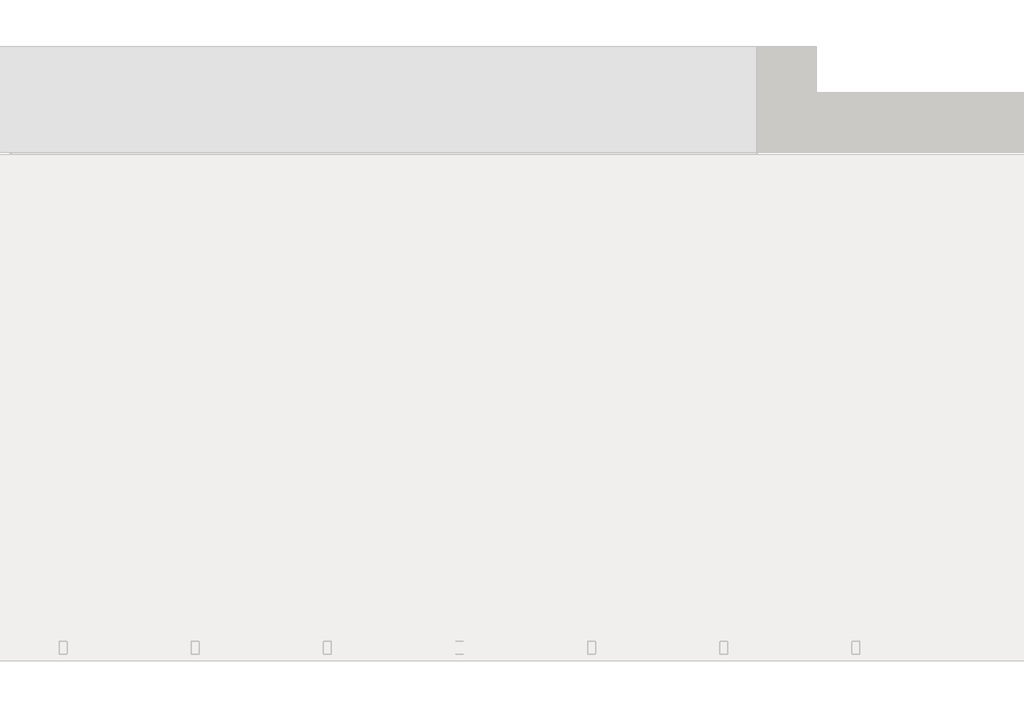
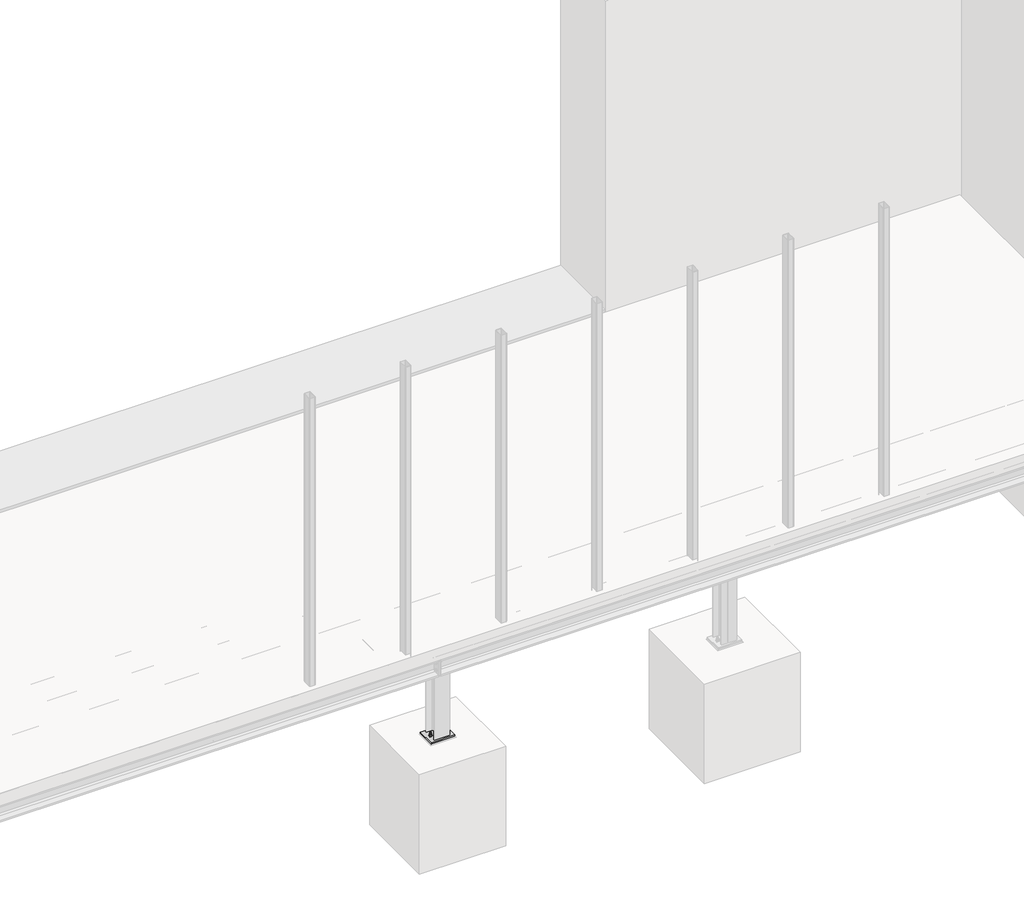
# One storey, part 13 of 36: 10 proxies.
"""IFC4 building model written with IfcOpenShell, lengths in millimetres."""

from ifc_helpers import new_model, si_unit, point, frame, frame_2d, origin, place, context, project, spatial, polyline, circle_curve, trimmed, segment, composite_curve, outline, extrude, element, save

model = new_model("IFC4")

# Units and contexts
model_context = context("Model", 3, world=origin())
ifc_project = project(units=[si_unit("LENGTHUNIT", "METRE", prefix="MILLI")], contexts=[model_context])

# Site, building, storey
site = spatial("IfcSite", under=ifc_project)
building = spatial("IfcBuilding", under=site)
storey = spatial("IfcBuildingStorey", under=building, Name="Základy", Elevation=-1200.0)

# Proxies
placement = place(None, origin())
element("IfcBuildingElementProxy", 1, Name="PLECH", ObjectType="PLECH", at=placement, inside=storey, context=model_context, shape_type="SweptSolid", body=[
    extrude(outline(polyline([(11940.0, 1200.0), (11940.0, 1320.0), (11950.0, 1320.0), (11950.0, 1200.0), (11940.0, 1200.0)])), frame((0.0, 0.0, -299.0), z_axis=(0.0, 0.0, 1.0), x_axis=(1.0, 0.0, 0.0)), (0.0, 0.0, 1.0), 98.0),
])
element("IfcBuildingElementProxy", 2, Name="PLECH", ObjectType="PLECH", at=placement, inside=storey, context=model_context, shape_type="SweptSolid", body=[
    extrude(outline(polyline([(8960.0, 3775.0), (9140.0, 3775.0), (9140.0, 3767.0), (8960.0, 3767.0), (8960.0, 3775.0)])), frame((0.0, 0.0, -316.0), z_axis=(0.0, 0.0, 1.0), x_axis=(1.0, 0.0, 0.0)), (0.0, 0.0, 1.0), 132.0),
])
element("IfcBuildingElementProxy", 3, Name="PLECH", ObjectType="PLECH", at=placement, inside=storey, context=model_context, shape_type="SweptSolid", body=[
    extrude(outline(composite_curve([segment(polyline([(-174.0, 8960.0), (-326.0, 8960.0), (-326.0, 9020.5)]), True, "CONTINUOUS"), segment(trimmed(circle_curve(frame_2d((-326.0, 9045.5)), 25.0), [point((-326.0, 9020.5))], [point((-301.0, 9045.5))], True, "CARTESIAN"), True, "CONTINUOUS"), segment(polyline([(-301.0, 9045.5), (-199.0, 9045.5)]), True, "CONTINUOUS"), segment(trimmed(circle_curve(frame_2d((-174.0, 9045.5)), 25.0), [point((-199.0, 9045.5))], [point((-174.0, 9020.5))], True, "CARTESIAN"), True, "CONTINUOUS"), segment(polyline([(-174.0, 9020.5), (-174.0, 8960.0)]), True, "CONTINUOUS")], self_intersect=False)), frame((0.0, 1256.0, 0.0), z_axis=(0.0, 1.0, 0.0), x_axis=(0.0, 0.0, 1.0)), (0.0, 0.0, 1.0), 8.0),
])
element("IfcBuildingElementProxy", 4, Name="PLECH", ObjectType="PLECH", at=placement, inside=storey, context=model_context, shape_type="SweptSolid", body=[
    extrude(outline(polyline([(11950.0, 1200.0), (11950.0, 1320.0), (11960.0, 1320.0), (11960.0, 1200.0), (11950.0, 1200.0)])), frame((0.0, 0.0, -332.0), z_axis=(0.0, 0.0, 1.0), x_axis=(1.0, 0.0, 0.0)), (0.0, 0.0, 1.0), 164.0),
])
element("IfcBuildingElementProxy", 5, Name="PLECH", ObjectType="PLECH", at=placement, inside=storey, context=model_context, shape_type="SweptSolid", body=[
    extrude(outline(polyline([(9175.0, 1356.0), (9175.0, 1164.0), (8925.0, 1164.0), (8925.0, 1356.0), (9175.0, 1356.0)])), frame((0.0, 0.0, -1990.0), z_axis=(0.0, 0.0, 1.0), x_axis=(1.0, 0.0, 0.0)), (0.0, 0.0, 1.0), 15.0),
])
element("IfcBuildingElementProxy", 6, Name="PLECH", ObjectType="PLECH", at=placement, inside=storey, context=model_context, shape_type="SweptSolid", body=[
    extrude(outline(polyline([(9140.0, 1346.0), (9140.0, 1174.0), (8960.0, 1174.0), (8960.0, 1346.0), (9140.0, 1346.0)])), frame((0.0, 0.0, -350.0), z_axis=(0.0, 0.0, 1.0), x_axis=(1.0, 0.0, 0.0)), (0.0, 0.0, 1.0), 10.0),
])
element("IfcBuildingElementProxy", 7, Name="Bolt assembly", ObjectType="Bolt assembly", at=placement, inside=storey, context=model_context, shape_type="SweptSolid", body=[
    extrude(outline(composite_curve([segment(trimmed(circle_curve(frame_2d((1230.0, -225.0)), 6.5), [point((1230.0, -231.5))], [point((1230.0, -218.5))], False, "CARTESIAN"), True, "CONTINUOUS"), segment(trimmed(circle_curve(frame_2d((1230.0, -225.0)), 6.5), [point((1230.0, -218.5))], [point((1230.0, -231.5))], False, "CARTESIAN"), True, "CONTINUOUS")], self_intersect=False)), frame((9140.1, 0.0, 0.0), z_axis=(1.0, 0.0, 0.0), x_axis=(0.0, 1.0, 0.0)), (0.0, 0.0, 1.0), 10.0),
    extrude(outline(polyline([(1230.0, -235.3923048), (1221.0, -230.1961524), (1221.0, -219.8038476), (1230.0, -214.6076952), (1239.0, -219.8038476), (1239.0, -230.1961524), (1230.0, -235.3923048)])), frame((9130.0, 0.0, 0.0), z_axis=(1.0, 0.0, 0.0), x_axis=(0.0, 1.0, 0.0)), (0.0, 0.0, 1.0), 7.5),
    extrude(outline(composite_curve([segment(trimmed(circle_curve(frame_2d((1230.0, -225.0)), 6.0), [point((1230.0, -231.0))], [point((1230.0, -219.0))], False, "CARTESIAN"), True, "CONTINUOUS"), segment(trimmed(circle_curve(frame_2d((1230.0, -225.0)), 6.0), [point((1230.0, -219.0))], [point((1230.0, -231.0))], False, "CARTESIAN"), True, "CONTINUOUS")], self_intersect=False)), frame((9137.5, 0.0, 0.0), z_axis=(1.0, 0.0, 0.0), x_axis=(0.0, 1.0, 0.0)), (0.0, 0.0, 1.0), 40.0),
    extrude(outline(composite_curve([segment(trimmed(circle_curve(frame_2d((1230.0, -225.0)), 12.0), [point((1230.0, -237.0))], [point((1230.0, -213.0))], False, "CARTESIAN"), True, "CONTINUOUS"), segment(trimmed(circle_curve(frame_2d((1230.0, -225.0)), 12.0), [point((1230.0, -213.0))], [point((1230.0, -237.0))], False, "CARTESIAN"), True, "CONTINUOUS")], self_intersect=False)), frame((9137.5, 0.0, 0.0), z_axis=(1.0, 0.0, 0.0), x_axis=(0.0, 1.0, 0.0)), (0.0, 0.0, 1.0), 2.5),
    extrude(outline(composite_curve([segment(trimmed(circle_curve(frame_2d((1230.0, -225.0)), 12.0), [point((1230.0, -237.0))], [point((1230.0, -213.0))], False, "CARTESIAN"), True, "CONTINUOUS"), segment(trimmed(circle_curve(frame_2d((1230.0, -225.0)), 12.0), [point((1230.0, -213.0))], [point((1230.0, -237.0))], False, "CARTESIAN"), True, "CONTINUOUS")], self_intersect=False)), frame((9160.0, 0.0, 0.0), z_axis=(1.0, 0.0, 0.0), x_axis=(0.0, 1.0, 0.0)), (0.0, 0.0, 1.0), 2.5),
    extrude(outline(polyline([(1230.0, -235.9696551), (1220.5, -230.4848276), (1220.5, -219.5151724), (1230.0, -214.0303449), (1239.5, -219.5151724), (1239.5, -230.4848276), (1230.0, -235.9696551)])), frame((9162.5, 0.0, 0.0), z_axis=(1.0, 0.0, 0.0), x_axis=(0.0, 1.0, 0.0)), (0.0, 0.0, 1.0), 10.0),
    extrude(outline(composite_curve([segment(trimmed(circle_curve(frame_2d((1230.0, -225.0)), 6.5), [point((1230.0, -231.5))], [point((1230.0, -218.5))], False, "CARTESIAN"), True, "CONTINUOUS"), segment(trimmed(circle_curve(frame_2d((1230.0, -225.0)), 6.5), [point((1230.0, -218.5))], [point((1230.0, -231.5))], False, "CARTESIAN"), True, "CONTINUOUS")], self_intersect=False)), frame((9149.9, 0.0, 0.0), z_axis=(1.0, 0.0, 0.0), x_axis=(0.0, 1.0, 0.0)), (0.0, 0.0, 1.0), 10.1),
    extrude(outline(composite_curve([segment(trimmed(circle_curve(frame_2d((1230.0, -275.0)), 6.5), [point((1230.0, -281.5))], [point((1230.0, -268.5))], False, "CARTESIAN"), True, "CONTINUOUS"), segment(trimmed(circle_curve(frame_2d((1230.0, -275.0)), 6.5), [point((1230.0, -268.5))], [point((1230.0, -281.5))], False, "CARTESIAN"), True, "CONTINUOUS")], self_intersect=False)), frame((9140.1, 0.0, 0.0), z_axis=(1.0, 0.0, 0.0), x_axis=(0.0, 1.0, 0.0)), (0.0, 0.0, 1.0), 10.0),
    extrude(outline(polyline([(1230.0, -285.3923048), (1221.0, -280.1961524), (1221.0, -269.8038476), (1230.0, -264.6076952), (1239.0, -269.8038476), (1239.0, -280.1961524), (1230.0, -285.3923048)])), frame((9130.0, 0.0, 0.0), z_axis=(1.0, 0.0, 0.0), x_axis=(0.0, 1.0, 0.0)), (0.0, 0.0, 1.0), 7.5),
    extrude(outline(composite_curve([segment(trimmed(circle_curve(frame_2d((1230.0, -275.0)), 6.0), [point((1230.0, -281.0))], [point((1230.0, -269.0))], False, "CARTESIAN"), True, "CONTINUOUS"), segment(trimmed(circle_curve(frame_2d((1230.0, -275.0)), 6.0), [point((1230.0, -269.0))], [point((1230.0, -281.0))], False, "CARTESIAN"), True, "CONTINUOUS")], self_intersect=False)), frame((9137.5, 0.0, 0.0), z_axis=(1.0, 0.0, 0.0), x_axis=(0.0, 1.0, 0.0)), (0.0, 0.0, 1.0), 40.0),
    extrude(outline(composite_curve([segment(trimmed(circle_curve(frame_2d((1230.0, -275.0)), 12.0), [point((1230.0, -287.0))], [point((1230.0, -263.0))], False, "CARTESIAN"), True, "CONTINUOUS"), segment(trimmed(circle_curve(frame_2d((1230.0, -275.0)), 12.0), [point((1230.0, -263.0))], [point((1230.0, -287.0))], False, "CARTESIAN"), True, "CONTINUOUS")], self_intersect=False)), frame((9137.5, 0.0, 0.0), z_axis=(1.0, 0.0, 0.0), x_axis=(0.0, 1.0, 0.0)), (0.0, 0.0, 1.0), 2.5),
    extrude(outline(composite_curve([segment(trimmed(circle_curve(frame_2d((1230.0, -275.0)), 12.0), [point((1230.0, -287.0))], [point((1230.0, -263.0))], False, "CARTESIAN"), True, "CONTINUOUS"), segment(trimmed(circle_curve(frame_2d((1230.0, -275.0)), 12.0), [point((1230.0, -263.0))], [point((1230.0, -287.0))], False, "CARTESIAN"), True, "CONTINUOUS")], self_intersect=False)), frame((9160.0, 0.0, 0.0), z_axis=(1.0, 0.0, 0.0), x_axis=(0.0, 1.0, 0.0)), (0.0, 0.0, 1.0), 2.5),
    extrude(outline(polyline([(1230.0, -285.9696551), (1220.5, -280.4848276), (1220.5, -269.5151724), (1230.0, -264.0303449), (1239.5, -269.5151724), (1239.5, -280.4848276), (1230.0, -285.9696551)])), frame((9162.5, 0.0, 0.0), z_axis=(1.0, 0.0, 0.0), x_axis=(0.0, 1.0, 0.0)), (0.0, 0.0, 1.0), 10.0),
    extrude(outline(composite_curve([segment(trimmed(circle_curve(frame_2d((1230.0, -275.0)), 6.5), [point((1230.0, -281.5))], [point((1230.0, -268.5))], False, "CARTESIAN"), True, "CONTINUOUS"), segment(trimmed(circle_curve(frame_2d((1230.0, -275.0)), 6.5), [point((1230.0, -268.5))], [point((1230.0, -281.5))], False, "CARTESIAN"), True, "CONTINUOUS")], self_intersect=False)), frame((9149.9, 0.0, 0.0), z_axis=(1.0, 0.0, 0.0), x_axis=(0.0, 1.0, 0.0)), (0.0, 0.0, 1.0), 10.1),
    extrude(outline(composite_curve([segment(trimmed(circle_curve(frame_2d((1290.0, -225.0)), 6.5), [point((1290.0, -231.5))], [point((1290.0, -218.5))], False, "CARTESIAN"), True, "CONTINUOUS"), segment(trimmed(circle_curve(frame_2d((1290.0, -225.0)), 6.5), [point((1290.0, -218.5))], [point((1290.0, -231.5))], False, "CARTESIAN"), True, "CONTINUOUS")], self_intersect=False)), frame((9140.1, 0.0, 0.0), z_axis=(1.0, 0.0, 0.0), x_axis=(0.0, 1.0, 0.0)), (0.0, 0.0, 1.0), 10.0),
    extrude(outline(polyline([(1290.0, -235.3923048), (1281.0, -230.1961524), (1281.0, -219.8038476), (1290.0, -214.6076952), (1299.0, -219.8038476), (1299.0, -230.1961524), (1290.0, -235.3923048)])), frame((9130.0, 0.0, 0.0), z_axis=(1.0, 0.0, 0.0), x_axis=(0.0, 1.0, 0.0)), (0.0, 0.0, 1.0), 7.5),
    extrude(outline(composite_curve([segment(trimmed(circle_curve(frame_2d((1290.0, -225.0)), 6.0), [point((1290.0, -231.0))], [point((1290.0, -219.0))], False, "CARTESIAN"), True, "CONTINUOUS"), segment(trimmed(circle_curve(frame_2d((1290.0, -225.0)), 6.0), [point((1290.0, -219.0))], [point((1290.0, -231.0))], False, "CARTESIAN"), True, "CONTINUOUS")], self_intersect=False)), frame((9137.5, 0.0, 0.0), z_axis=(1.0, 0.0, 0.0), x_axis=(0.0, 1.0, 0.0)), (0.0, 0.0, 1.0), 40.0),
    extrude(outline(composite_curve([segment(trimmed(circle_curve(frame_2d((1290.0, -225.0)), 12.0), [point((1290.0, -237.0))], [point((1290.0, -213.0))], False, "CARTESIAN"), True, "CONTINUOUS"), segment(trimmed(circle_curve(frame_2d((1290.0, -225.0)), 12.0), [point((1290.0, -213.0))], [point((1290.0, -237.0))], False, "CARTESIAN"), True, "CONTINUOUS")], self_intersect=False)), frame((9137.5, 0.0, 0.0), z_axis=(1.0, 0.0, 0.0), x_axis=(0.0, 1.0, 0.0)), (0.0, 0.0, 1.0), 2.5),
    extrude(outline(composite_curve([segment(trimmed(circle_curve(frame_2d((1290.0, -225.0)), 12.0), [point((1290.0, -237.0))], [point((1290.0, -213.0))], False, "CARTESIAN"), True, "CONTINUOUS"), segment(trimmed(circle_curve(frame_2d((1290.0, -225.0)), 12.0), [point((1290.0, -213.0))], [point((1290.0, -237.0))], False, "CARTESIAN"), True, "CONTINUOUS")], self_intersect=False)), frame((9160.0, 0.0, 0.0), z_axis=(1.0, 0.0, 0.0), x_axis=(0.0, 1.0, 0.0)), (0.0, 0.0, 1.0), 2.5),
    extrude(outline(polyline([(1290.0, -235.9696551), (1280.5, -230.4848276), (1280.5, -219.5151724), (1290.0, -214.0303449), (1299.5, -219.5151724), (1299.5, -230.4848276), (1290.0, -235.9696551)])), frame((9162.5, 0.0, 0.0), z_axis=(1.0, 0.0, 0.0), x_axis=(0.0, 1.0, 0.0)), (0.0, 0.0, 1.0), 10.0),
    extrude(outline(composite_curve([segment(trimmed(circle_curve(frame_2d((1290.0, -225.0)), 6.5), [point((1290.0, -231.5))], [point((1290.0, -218.5))], False, "CARTESIAN"), True, "CONTINUOUS"), segment(trimmed(circle_curve(frame_2d((1290.0, -225.0)), 6.5), [point((1290.0, -218.5))], [point((1290.0, -231.5))], False, "CARTESIAN"), True, "CONTINUOUS")], self_intersect=False)), frame((9149.9, 0.0, 0.0), z_axis=(1.0, 0.0, 0.0), x_axis=(0.0, 1.0, 0.0)), (0.0, 0.0, 1.0), 10.1),
    extrude(outline(composite_curve([segment(trimmed(circle_curve(frame_2d((1290.0, -275.0)), 6.5), [point((1290.0, -281.5))], [point((1290.0, -268.5))], False, "CARTESIAN"), True, "CONTINUOUS"), segment(trimmed(circle_curve(frame_2d((1290.0, -275.0)), 6.5), [point((1290.0, -268.5))], [point((1290.0, -281.5))], False, "CARTESIAN"), True, "CONTINUOUS")], self_intersect=False)), frame((9140.1, 0.0, 0.0), z_axis=(1.0, 0.0, 0.0), x_axis=(0.0, 1.0, 0.0)), (0.0, 0.0, 1.0), 10.0),
    extrude(outline(polyline([(1290.0, -285.3923048), (1281.0, -280.1961524), (1281.0, -269.8038476), (1290.0, -264.6076952), (1299.0, -269.8038476), (1299.0, -280.1961524), (1290.0, -285.3923048)])), frame((9130.0, 0.0, 0.0), z_axis=(1.0, 0.0, 0.0), x_axis=(0.0, 1.0, 0.0)), (0.0, 0.0, 1.0), 7.5),
    extrude(outline(composite_curve([segment(trimmed(circle_curve(frame_2d((1290.0, -275.0)), 6.0), [point((1290.0, -281.0))], [point((1290.0, -269.0))], False, "CARTESIAN"), True, "CONTINUOUS"), segment(trimmed(circle_curve(frame_2d((1290.0, -275.0)), 6.0), [point((1290.0, -269.0))], [point((1290.0, -281.0))], False, "CARTESIAN"), True, "CONTINUOUS")], self_intersect=False)), frame((9137.5, 0.0, 0.0), z_axis=(1.0, 0.0, 0.0), x_axis=(0.0, 1.0, 0.0)), (0.0, 0.0, 1.0), 40.0),
    extrude(outline(composite_curve([segment(trimmed(circle_curve(frame_2d((1290.0, -275.0)), 12.0), [point((1290.0, -287.0))], [point((1290.0, -263.0))], False, "CARTESIAN"), True, "CONTINUOUS"), segment(trimmed(circle_curve(frame_2d((1290.0, -275.0)), 12.0), [point((1290.0, -263.0))], [point((1290.0, -287.0))], False, "CARTESIAN"), True, "CONTINUOUS")], self_intersect=False)), frame((9137.5, 0.0, 0.0), z_axis=(1.0, 0.0, 0.0), x_axis=(0.0, 1.0, 0.0)), (0.0, 0.0, 1.0), 2.5),
    extrude(outline(composite_curve([segment(trimmed(circle_curve(frame_2d((1290.0, -275.0)), 12.0), [point((1290.0, -287.0))], [point((1290.0, -263.0))], False, "CARTESIAN"), True, "CONTINUOUS"), segment(trimmed(circle_curve(frame_2d((1290.0, -275.0)), 12.0), [point((1290.0, -263.0))], [point((1290.0, -287.0))], False, "CARTESIAN"), True, "CONTINUOUS")], self_intersect=False)), frame((9160.0, 0.0, 0.0), z_axis=(1.0, 0.0, 0.0), x_axis=(0.0, 1.0, 0.0)), (0.0, 0.0, 1.0), 2.5),
    extrude(outline(polyline([(1290.0, -285.9696551), (1280.5, -280.4848276), (1280.5, -269.5151724), (1290.0, -264.0303449), (1299.5, -269.5151724), (1299.5, -280.4848276), (1290.0, -285.9696551)])), frame((9162.5, 0.0, 0.0), z_axis=(1.0, 0.0, 0.0), x_axis=(0.0, 1.0, 0.0)), (0.0, 0.0, 1.0), 10.0),
    extrude(outline(composite_curve([segment(trimmed(circle_curve(frame_2d((1290.0, -275.0)), 6.5), [point((1290.0, -281.5))], [point((1290.0, -268.5))], False, "CARTESIAN"), True, "CONTINUOUS"), segment(trimmed(circle_curve(frame_2d((1290.0, -275.0)), 6.5), [point((1290.0, -268.5))], [point((1290.0, -281.5))], False, "CARTESIAN"), True, "CONTINUOUS")], self_intersect=False)), frame((9149.9, 0.0, 0.0), z_axis=(1.0, 0.0, 0.0), x_axis=(0.0, 1.0, 0.0)), (0.0, 0.0, 1.0), 10.1),
])
element("IfcBuildingElementProxy", 8, Name="Bolt assembly", ObjectType="Bolt assembly", at=placement, inside=storey, context=model_context, shape_type="SweptSolid", body=[
    extrude(outline(composite_curve([segment(trimmed(circle_curve(frame_2d((1230.0, -225.0)), 6.5), [point((1230.0, -231.5))], [point((1230.0, -218.5))], False, "CARTESIAN"), True, "CONTINUOUS"), segment(trimmed(circle_curve(frame_2d((1230.0, -225.0)), 6.5), [point((1230.0, -218.5))], [point((1230.0, -231.5))], False, "CARTESIAN"), True, "CONTINUOUS")], self_intersect=False)), frame((11949.9, 0.0, 0.0), z_axis=(1.0, 0.0, 0.0), x_axis=(0.0, 1.0, 0.0)), (0.0, 0.0, 1.0), 10.0),
    extrude(outline(polyline([(1230.0, -235.3923048), (1221.0, -230.1961524), (1221.0, -219.8038476), (1230.0, -214.6076952), (1239.0, -219.8038476), (1239.0, -230.1961524), (1230.0, -235.3923048)])), frame((11962.5, 0.0, 0.0), z_axis=(1.0, 0.0, 0.0), x_axis=(0.0, 1.0, 0.0)), (0.0, 0.0, 1.0), 7.5),
    extrude(outline(composite_curve([segment(trimmed(circle_curve(frame_2d((1230.0, -225.0)), 6.0), [point((1230.0, -231.0))], [point((1230.0, -219.0))], False, "CARTESIAN"), True, "CONTINUOUS"), segment(trimmed(circle_curve(frame_2d((1230.0, -225.0)), 6.0), [point((1230.0, -219.0))], [point((1230.0, -231.0))], False, "CARTESIAN"), True, "CONTINUOUS")], self_intersect=False)), frame((11922.5, 0.0, 0.0), z_axis=(1.0, 0.0, 0.0), x_axis=(0.0, 1.0, 0.0)), (0.0, 0.0, 1.0), 40.0),
    extrude(outline(composite_curve([segment(trimmed(circle_curve(frame_2d((1230.0, -225.0)), 12.0), [point((1230.0, -237.0))], [point((1230.0, -213.0))], False, "CARTESIAN"), True, "CONTINUOUS"), segment(trimmed(circle_curve(frame_2d((1230.0, -225.0)), 12.0), [point((1230.0, -213.0))], [point((1230.0, -237.0))], False, "CARTESIAN"), True, "CONTINUOUS")], self_intersect=False)), frame((11960.0, 0.0, 0.0), z_axis=(1.0, 0.0, 0.0), x_axis=(0.0, 1.0, 0.0)), (0.0, 0.0, 1.0), 2.5),
    extrude(outline(composite_curve([segment(trimmed(circle_curve(frame_2d((1230.0, -225.0)), 12.0), [point((1230.0, -237.0))], [point((1230.0, -213.0))], False, "CARTESIAN"), True, "CONTINUOUS"), segment(trimmed(circle_curve(frame_2d((1230.0, -225.0)), 12.0), [point((1230.0, -213.0))], [point((1230.0, -237.0))], False, "CARTESIAN"), True, "CONTINUOUS")], self_intersect=False)), frame((11937.5, 0.0, 0.0), z_axis=(1.0, 0.0, 0.0), x_axis=(0.0, 1.0, 0.0)), (0.0, 0.0, 1.0), 2.5),
    extrude(outline(polyline([(1230.0, -235.9696551), (1220.5, -230.4848276), (1220.5, -219.5151724), (1230.0, -214.0303449), (1239.5, -219.5151724), (1239.5, -230.4848276), (1230.0, -235.9696551)])), frame((11927.5, 0.0, 0.0), z_axis=(1.0, 0.0, 0.0), x_axis=(0.0, 1.0, 0.0)), (0.0, 0.0, 1.0), 10.0),
    extrude(outline(composite_curve([segment(trimmed(circle_curve(frame_2d((1230.0, -225.0)), 6.5), [point((1230.0, -231.5))], [point((1230.0, -218.5))], False, "CARTESIAN"), True, "CONTINUOUS"), segment(trimmed(circle_curve(frame_2d((1230.0, -225.0)), 6.5), [point((1230.0, -218.5))], [point((1230.0, -231.5))], False, "CARTESIAN"), True, "CONTINUOUS")], self_intersect=False)), frame((11940.0, 0.0, 0.0), z_axis=(1.0, 0.0, 0.0), x_axis=(0.0, 1.0, 0.0)), (0.0, 0.0, 1.0), 10.1),
    extrude(outline(composite_curve([segment(trimmed(circle_curve(frame_2d((1230.0, -275.0)), 6.5), [point((1230.0, -281.5))], [point((1230.0, -268.5))], False, "CARTESIAN"), True, "CONTINUOUS"), segment(trimmed(circle_curve(frame_2d((1230.0, -275.0)), 6.5), [point((1230.0, -268.5))], [point((1230.0, -281.5))], False, "CARTESIAN"), True, "CONTINUOUS")], self_intersect=False)), frame((11949.9, 0.0, 0.0), z_axis=(1.0, 0.0, 0.0), x_axis=(0.0, 1.0, 0.0)), (0.0, 0.0, 1.0), 10.0),
    extrude(outline(polyline([(1230.0, -285.3923048), (1221.0, -280.1961524), (1221.0, -269.8038476), (1230.0, -264.6076952), (1239.0, -269.8038476), (1239.0, -280.1961524), (1230.0, -285.3923048)])), frame((11962.5, 0.0, 0.0), z_axis=(1.0, 0.0, 0.0), x_axis=(0.0, 1.0, 0.0)), (0.0, 0.0, 1.0), 7.5),
    extrude(outline(composite_curve([segment(trimmed(circle_curve(frame_2d((1230.0, -275.0)), 6.0), [point((1230.0, -281.0))], [point((1230.0, -269.0))], False, "CARTESIAN"), True, "CONTINUOUS"), segment(trimmed(circle_curve(frame_2d((1230.0, -275.0)), 6.0), [point((1230.0, -269.0))], [point((1230.0, -281.0))], False, "CARTESIAN"), True, "CONTINUOUS")], self_intersect=False)), frame((11922.5, 0.0, 0.0), z_axis=(1.0, 0.0, 0.0), x_axis=(0.0, 1.0, 0.0)), (0.0, 0.0, 1.0), 40.0),
    extrude(outline(composite_curve([segment(trimmed(circle_curve(frame_2d((1230.0, -275.0)), 12.0), [point((1230.0, -287.0))], [point((1230.0, -263.0))], False, "CARTESIAN"), True, "CONTINUOUS"), segment(trimmed(circle_curve(frame_2d((1230.0, -275.0)), 12.0), [point((1230.0, -263.0))], [point((1230.0, -287.0))], False, "CARTESIAN"), True, "CONTINUOUS")], self_intersect=False)), frame((11960.0, 0.0, 0.0), z_axis=(1.0, 0.0, 0.0), x_axis=(0.0, 1.0, 0.0)), (0.0, 0.0, 1.0), 2.5),
    extrude(outline(composite_curve([segment(trimmed(circle_curve(frame_2d((1230.0, -275.0)), 12.0), [point((1230.0, -287.0))], [point((1230.0, -263.0))], False, "CARTESIAN"), True, "CONTINUOUS"), segment(trimmed(circle_curve(frame_2d((1230.0, -275.0)), 12.0), [point((1230.0, -263.0))], [point((1230.0, -287.0))], False, "CARTESIAN"), True, "CONTINUOUS")], self_intersect=False)), frame((11937.5, 0.0, 0.0), z_axis=(1.0, 0.0, 0.0), x_axis=(0.0, 1.0, 0.0)), (0.0, 0.0, 1.0), 2.5),
    extrude(outline(polyline([(1230.0, -285.9696551), (1220.5, -280.4848276), (1220.5, -269.5151724), (1230.0, -264.0303449), (1239.5, -269.5151724), (1239.5, -280.4848276), (1230.0, -285.9696551)])), frame((11927.5, 0.0, 0.0), z_axis=(1.0, 0.0, 0.0), x_axis=(0.0, 1.0, 0.0)), (0.0, 0.0, 1.0), 10.0),
    extrude(outline(composite_curve([segment(trimmed(circle_curve(frame_2d((1230.0, -275.0)), 6.5), [point((1230.0, -281.5))], [point((1230.0, -268.5))], False, "CARTESIAN"), True, "CONTINUOUS"), segment(trimmed(circle_curve(frame_2d((1230.0, -275.0)), 6.5), [point((1230.0, -268.5))], [point((1230.0, -281.5))], False, "CARTESIAN"), True, "CONTINUOUS")], self_intersect=False)), frame((11940.0, 0.0, 0.0), z_axis=(1.0, 0.0, 0.0), x_axis=(0.0, 1.0, 0.0)), (0.0, 0.0, 1.0), 10.1),
    extrude(outline(composite_curve([segment(trimmed(circle_curve(frame_2d((1290.0, -225.0)), 6.5), [point((1290.0, -231.5))], [point((1290.0, -218.5))], False, "CARTESIAN"), True, "CONTINUOUS"), segment(trimmed(circle_curve(frame_2d((1290.0, -225.0)), 6.5), [point((1290.0, -218.5))], [point((1290.0, -231.5))], False, "CARTESIAN"), True, "CONTINUOUS")], self_intersect=False)), frame((11949.9, 0.0, 0.0), z_axis=(1.0, 0.0, 0.0), x_axis=(0.0, 1.0, 0.0)), (0.0, 0.0, 1.0), 10.0),
    extrude(outline(polyline([(1290.0, -235.3923048), (1281.0, -230.1961524), (1281.0, -219.8038476), (1290.0, -214.6076952), (1299.0, -219.8038476), (1299.0, -230.1961524), (1290.0, -235.3923048)])), frame((11962.5, 0.0, 0.0), z_axis=(1.0, 0.0, 0.0), x_axis=(0.0, 1.0, 0.0)), (0.0, 0.0, 1.0), 7.5),
    extrude(outline(composite_curve([segment(trimmed(circle_curve(frame_2d((1290.0, -225.0)), 6.0), [point((1290.0, -231.0))], [point((1290.0, -219.0))], False, "CARTESIAN"), True, "CONTINUOUS"), segment(trimmed(circle_curve(frame_2d((1290.0, -225.0)), 6.0), [point((1290.0, -219.0))], [point((1290.0, -231.0))], False, "CARTESIAN"), True, "CONTINUOUS")], self_intersect=False)), frame((11922.5, 0.0, 0.0), z_axis=(1.0, 0.0, 0.0), x_axis=(0.0, 1.0, 0.0)), (0.0, 0.0, 1.0), 40.0),
    extrude(outline(composite_curve([segment(trimmed(circle_curve(frame_2d((1290.0, -225.0)), 12.0), [point((1290.0, -237.0))], [point((1290.0, -213.0))], False, "CARTESIAN"), True, "CONTINUOUS"), segment(trimmed(circle_curve(frame_2d((1290.0, -225.0)), 12.0), [point((1290.0, -213.0))], [point((1290.0, -237.0))], False, "CARTESIAN"), True, "CONTINUOUS")], self_intersect=False)), frame((11960.0, 0.0, 0.0), z_axis=(1.0, 0.0, 0.0), x_axis=(0.0, 1.0, 0.0)), (0.0, 0.0, 1.0), 2.5),
    extrude(outline(composite_curve([segment(trimmed(circle_curve(frame_2d((1290.0, -225.0)), 12.0), [point((1290.0, -237.0))], [point((1290.0, -213.0))], False, "CARTESIAN"), True, "CONTINUOUS"), segment(trimmed(circle_curve(frame_2d((1290.0, -225.0)), 12.0), [point((1290.0, -213.0))], [point((1290.0, -237.0))], False, "CARTESIAN"), True, "CONTINUOUS")], self_intersect=False)), frame((11937.5, 0.0, 0.0), z_axis=(1.0, 0.0, 0.0), x_axis=(0.0, 1.0, 0.0)), (0.0, 0.0, 1.0), 2.5),
    extrude(outline(polyline([(1290.0, -235.9696551), (1280.5, -230.4848276), (1280.5, -219.5151724), (1290.0, -214.0303449), (1299.5, -219.5151724), (1299.5, -230.4848276), (1290.0, -235.9696551)])), frame((11927.5, 0.0, 0.0), z_axis=(1.0, 0.0, 0.0), x_axis=(0.0, 1.0, 0.0)), (0.0, 0.0, 1.0), 10.0),
    extrude(outline(composite_curve([segment(trimmed(circle_curve(frame_2d((1290.0, -225.0)), 6.5), [point((1290.0, -231.5))], [point((1290.0, -218.5))], False, "CARTESIAN"), True, "CONTINUOUS"), segment(trimmed(circle_curve(frame_2d((1290.0, -225.0)), 6.5), [point((1290.0, -218.5))], [point((1290.0, -231.5))], False, "CARTESIAN"), True, "CONTINUOUS")], self_intersect=False)), frame((11940.0, 0.0, 0.0), z_axis=(1.0, 0.0, 0.0), x_axis=(0.0, 1.0, 0.0)), (0.0, 0.0, 1.0), 10.1),
    extrude(outline(composite_curve([segment(trimmed(circle_curve(frame_2d((1290.0, -275.0)), 6.5), [point((1290.0, -281.5))], [point((1290.0, -268.5))], False, "CARTESIAN"), True, "CONTINUOUS"), segment(trimmed(circle_curve(frame_2d((1290.0, -275.0)), 6.5), [point((1290.0, -268.5))], [point((1290.0, -281.5))], False, "CARTESIAN"), True, "CONTINUOUS")], self_intersect=False)), frame((11949.9, 0.0, 0.0), z_axis=(1.0, 0.0, 0.0), x_axis=(0.0, 1.0, 0.0)), (0.0, 0.0, 1.0), 10.0),
    extrude(outline(polyline([(1290.0, -285.3923048), (1281.0, -280.1961524), (1281.0, -269.8038476), (1290.0, -264.6076952), (1299.0, -269.8038476), (1299.0, -280.1961524), (1290.0, -285.3923048)])), frame((11962.5, 0.0, 0.0), z_axis=(1.0, 0.0, 0.0), x_axis=(0.0, 1.0, 0.0)), (0.0, 0.0, 1.0), 7.5),
    extrude(outline(composite_curve([segment(trimmed(circle_curve(frame_2d((1290.0, -275.0)), 6.0), [point((1290.0, -281.0))], [point((1290.0, -269.0))], False, "CARTESIAN"), True, "CONTINUOUS"), segment(trimmed(circle_curve(frame_2d((1290.0, -275.0)), 6.0), [point((1290.0, -269.0))], [point((1290.0, -281.0))], False, "CARTESIAN"), True, "CONTINUOUS")], self_intersect=False)), frame((11922.5, 0.0, 0.0), z_axis=(1.0, 0.0, 0.0), x_axis=(0.0, 1.0, 0.0)), (0.0, 0.0, 1.0), 40.0),
    extrude(outline(composite_curve([segment(trimmed(circle_curve(frame_2d((1290.0, -275.0)), 12.0), [point((1290.0, -287.0))], [point((1290.0, -263.0))], False, "CARTESIAN"), True, "CONTINUOUS"), segment(trimmed(circle_curve(frame_2d((1290.0, -275.0)), 12.0), [point((1290.0, -263.0))], [point((1290.0, -287.0))], False, "CARTESIAN"), True, "CONTINUOUS")], self_intersect=False)), frame((11960.0, 0.0, 0.0), z_axis=(1.0, 0.0, 0.0), x_axis=(0.0, 1.0, 0.0)), (0.0, 0.0, 1.0), 2.5),
    extrude(outline(composite_curve([segment(trimmed(circle_curve(frame_2d((1290.0, -275.0)), 12.0), [point((1290.0, -287.0))], [point((1290.0, -263.0))], False, "CARTESIAN"), True, "CONTINUOUS"), segment(trimmed(circle_curve(frame_2d((1290.0, -275.0)), 12.0), [point((1290.0, -263.0))], [point((1290.0, -287.0))], False, "CARTESIAN"), True, "CONTINUOUS")], self_intersect=False)), frame((11937.5, 0.0, 0.0), z_axis=(1.0, 0.0, 0.0), x_axis=(0.0, 1.0, 0.0)), (0.0, 0.0, 1.0), 2.5),
    extrude(outline(polyline([(1290.0, -285.9696551), (1280.5, -280.4848276), (1280.5, -269.5151724), (1290.0, -264.0303449), (1299.5, -269.5151724), (1299.5, -280.4848276), (1290.0, -285.9696551)])), frame((11927.5, 0.0, 0.0), z_axis=(1.0, 0.0, 0.0), x_axis=(0.0, 1.0, 0.0)), (0.0, 0.0, 1.0), 10.0),
    extrude(outline(composite_curve([segment(trimmed(circle_curve(frame_2d((1290.0, -275.0)), 6.5), [point((1290.0, -281.5))], [point((1290.0, -268.5))], False, "CARTESIAN"), True, "CONTINUOUS"), segment(trimmed(circle_curve(frame_2d((1290.0, -275.0)), 6.5), [point((1290.0, -268.5))], [point((1290.0, -281.5))], False, "CARTESIAN"), True, "CONTINUOUS")], self_intersect=False)), frame((11940.0, 0.0, 0.0), z_axis=(1.0, 0.0, 0.0), x_axis=(0.0, 1.0, 0.0)), (0.0, 0.0, 1.0), 10.1),
])
element("IfcBuildingElementProxy", 9, Name="Bolt assembly", ObjectType="Bolt assembly", at=placement, inside=storey, context=model_context, shape_type="SweptSolid", body=[
    extrude(outline(polyline([(8982.7364934, 1260.0), (8978.8682467, 1253.3000002), (8971.1317533, 1253.3000002), (8967.2635066, 1260.0), (8971.1317533, 1266.6999998), (8978.8682467, 1266.6999998), (8982.7364934, 1260.0)])), frame((0.0, 0.0, -2122.0), z_axis=(0.0, 0.0, 1.0), x_axis=(1.0, 0.0, 0.0)), (0.0, 0.0, 1.0), 132.0),
    extrude(outline(composite_curve([segment(trimmed(circle_curve(frame_2d((8975.0, 1260.0)), 8.0), [point((8983.0, 1260.0))], [point((8967.0, 1260.0))], False, "CARTESIAN"), True, "CONTINUOUS"), segment(trimmed(circle_curve(frame_2d((8975.0, 1260.0)), 8.0), [point((8967.0, 1260.0))], [point((8983.0, 1260.0))], False, "CARTESIAN"), True, "CONTINUOUS")], self_intersect=False)), frame((0.0, 0.0, -1990.0), z_axis=(0.0, 0.0, 1.0), x_axis=(1.0, 0.0, 0.0)), (0.0, 0.0, 1.0), 58.0),
    extrude(outline(composite_curve([segment(trimmed(circle_curve(frame_2d((8975.0, 1260.0)), 15.0), [point((8990.0, 1260.0))], [point((8960.0, 1260.0))], False, "CARTESIAN"), True, "CONTINUOUS"), segment(trimmed(circle_curve(frame_2d((8975.0, 1260.0)), 15.0), [point((8960.0, 1260.0))], [point((8990.0, 1260.0))], False, "CARTESIAN"), True, "CONTINUOUS")], self_intersect=False)), frame((0.0, 0.0, -1975.0), z_axis=(0.0, 0.0, 1.0), x_axis=(1.0, 0.0, 0.0)), (0.0, 0.0, 1.0), 3.0),
    extrude(outline(polyline([(8990.4441197, 1260.0), (8982.7220599, 1246.625), (8967.2779401, 1246.625), (8959.5558803, 1260.0), (8967.2779401, 1273.375), (8982.7220599, 1273.375), (8990.4441197, 1260.0)])), frame((0.0, 0.0, -1972.0), z_axis=(0.0, 0.0, 1.0), x_axis=(1.0, 0.0, 0.0)), (0.0, 0.0, 1.0), 13.0),
    extrude(outline(composite_curve([segment(trimmed(circle_curve(frame_2d((8975.0, 1260.0)), 9.0), [point((8984.0, 1260.0))], [point((8966.0, 1260.0))], False, "CARTESIAN"), True, "CONTINUOUS"), segment(trimmed(circle_curve(frame_2d((8975.0, 1260.0)), 9.0), [point((8966.0, 1260.0))], [point((8984.0, 1260.0))], False, "CARTESIAN"), True, "CONTINUOUS")], self_intersect=False)), frame((0.0, 0.0, -1990.0), z_axis=(0.0, 0.0, 1.0), x_axis=(1.0, 0.0, 0.0)), (0.0, 0.0, 1.0), 15.1),
    extrude(outline(polyline([(9132.7364934, 1260.0), (9128.8682467, 1253.3000002), (9121.1317533, 1253.3000002), (9117.2635066, 1260.0), (9121.1317533, 1266.6999998), (9128.8682467, 1266.6999998), (9132.7364934, 1260.0)])), frame((0.0, 0.0, -2122.0), z_axis=(0.0, 0.0, 1.0), x_axis=(1.0, 0.0, 0.0)), (0.0, 0.0, 1.0), 132.0),
    extrude(outline(composite_curve([segment(trimmed(circle_curve(frame_2d((9125.0, 1260.0)), 8.0), [point((9133.0, 1260.0))], [point((9117.0, 1260.0))], False, "CARTESIAN"), True, "CONTINUOUS"), segment(trimmed(circle_curve(frame_2d((9125.0, 1260.0)), 8.0), [point((9117.0, 1260.0))], [point((9133.0, 1260.0))], False, "CARTESIAN"), True, "CONTINUOUS")], self_intersect=False)), frame((0.0, 0.0, -1990.0), z_axis=(0.0, 0.0, 1.0), x_axis=(1.0, 0.0, 0.0)), (0.0, 0.0, 1.0), 58.0),
    extrude(outline(composite_curve([segment(trimmed(circle_curve(frame_2d((9125.0, 1260.0)), 15.0), [point((9140.0, 1260.0))], [point((9110.0, 1260.0))], False, "CARTESIAN"), True, "CONTINUOUS"), segment(trimmed(circle_curve(frame_2d((9125.0, 1260.0)), 15.0), [point((9110.0, 1260.0))], [point((9140.0, 1260.0))], False, "CARTESIAN"), True, "CONTINUOUS")], self_intersect=False)), frame((0.0, 0.0, -1975.0), z_axis=(0.0, 0.0, 1.0), x_axis=(1.0, 0.0, 0.0)), (0.0, 0.0, 1.0), 3.0),
    extrude(outline(polyline([(9140.4441197, 1260.0), (9132.7220599, 1246.625), (9117.2779401, 1246.625), (9109.5558803, 1260.0), (9117.2779401, 1273.375), (9132.7220599, 1273.375), (9140.4441197, 1260.0)])), frame((0.0, 0.0, -1972.0), z_axis=(0.0, 0.0, 1.0), x_axis=(1.0, 0.0, 0.0)), (0.0, 0.0, 1.0), 13.0),
    extrude(outline(composite_curve([segment(trimmed(circle_curve(frame_2d((9125.0, 1260.0)), 9.0), [point((9134.0, 1260.0))], [point((9116.0, 1260.0))], False, "CARTESIAN"), True, "CONTINUOUS"), segment(trimmed(circle_curve(frame_2d((9125.0, 1260.0)), 9.0), [point((9116.0, 1260.0))], [point((9134.0, 1260.0))], False, "CARTESIAN"), True, "CONTINUOUS")], self_intersect=False)), frame((0.0, 0.0, -1990.0), z_axis=(0.0, 0.0, 1.0), x_axis=(1.0, 0.0, 0.0)), (0.0, 0.0, 1.0), 15.1),
])
element("IfcBuildingElementProxy", 10, Name="Bolt assembly", ObjectType="Bolt assembly", at=placement, inside=storey, context=model_context, shape_type="SweptSolid", body=[
    extrude(outline(composite_curve([segment(trimmed(circle_curve(frame_2d((9000.0, 1220.0)), 6.5), [point((9006.5, 1220.0))], [point((8993.5, 1220.0))], False, "CARTESIAN"), True, "CONTINUOUS"), segment(trimmed(circle_curve(frame_2d((9000.0, 1220.0)), 6.5), [point((8993.5, 1220.0))], [point((9006.5, 1220.0))], False, "CARTESIAN"), True, "CONTINUOUS")], self_intersect=False)), frame((0.0, 0.0, -350.0), z_axis=(0.0, 0.0, 1.0), x_axis=(1.0, 0.0, 0.0)), (0.0, 0.0, 1.0), 10.1),
    extrude(outline(polyline([(9010.3923048, 1220.0), (9005.1961524, 1211.0), (8994.8038476, 1211.0), (8989.6076952, 1220.0), (8994.8038476, 1229.0), (9005.1961524, 1229.0), (9010.3923048, 1220.0)])), frame((0.0, 0.0, -323.5), z_axis=(0.0, 0.0, 1.0), x_axis=(1.0, 0.0, 0.0)), (0.0, 0.0, 1.0), 7.5),
    extrude(outline(composite_curve([segment(trimmed(circle_curve(frame_2d((9000.0, 1220.0)), 6.0), [point((9006.0, 1220.0))], [point((8994.0, 1220.0))], False, "CARTESIAN"), True, "CONTINUOUS"), segment(trimmed(circle_curve(frame_2d((9000.0, 1220.0)), 6.0), [point((8994.0, 1220.0))], [point((9006.0, 1220.0))], False, "CARTESIAN"), True, "CONTINUOUS")], self_intersect=False)), frame((0.0, 0.0, -368.5), z_axis=(0.0, 0.0, 1.0), x_axis=(1.0, 0.0, 0.0)), (0.0, 0.0, 1.0), 45.0),
    extrude(outline(composite_curve([segment(trimmed(circle_curve(frame_2d((9000.0, 1220.0)), 12.0), [point((9012.0, 1220.0))], [point((8988.0, 1220.0))], False, "CARTESIAN"), True, "CONTINUOUS"), segment(trimmed(circle_curve(frame_2d((9000.0, 1220.0)), 12.0), [point((8988.0, 1220.0))], [point((9012.0, 1220.0))], False, "CARTESIAN"), True, "CONTINUOUS")], self_intersect=False)), frame((0.0, 0.0, -326.0), z_axis=(0.0, 0.0, 1.0), x_axis=(1.0, 0.0, 0.0)), (0.0, 0.0, 1.0), 2.5),
    extrude(outline(composite_curve([segment(trimmed(circle_curve(frame_2d((9000.0, 1220.0)), 12.0), [point((9012.0, 1220.0))], [point((8988.0, 1220.0))], False, "CARTESIAN"), True, "CONTINUOUS"), segment(trimmed(circle_curve(frame_2d((9000.0, 1220.0)), 12.0), [point((8988.0, 1220.0))], [point((9012.0, 1220.0))], False, "CARTESIAN"), True, "CONTINUOUS")], self_intersect=False)), frame((0.0, 0.0, -352.5), z_axis=(0.0, 0.0, 1.0), x_axis=(1.0, 0.0, 0.0)), (0.0, 0.0, 1.0), 2.5),
    extrude(outline(polyline([(9010.9696551, 1220.0), (9005.4848276, 1210.5), (8994.5151724, 1210.5), (8989.0303449, 1220.0), (8994.5151724, 1229.5), (9005.4848276, 1229.5), (9010.9696551, 1220.0)])), frame((0.0, 0.0, -362.5), z_axis=(0.0, 0.0, 1.0), x_axis=(1.0, 0.0, 0.0)), (0.0, 0.0, 1.0), 10.0),
    extrude(outline(composite_curve([segment(trimmed(circle_curve(frame_2d((9000.0, 1220.0)), 6.5), [point((9006.5, 1220.0))], [point((8993.5, 1220.0))], False, "CARTESIAN"), True, "CONTINUOUS"), segment(trimmed(circle_curve(frame_2d((9000.0, 1220.0)), 6.5), [point((8993.5, 1220.0))], [point((9006.5, 1220.0))], False, "CARTESIAN"), True, "CONTINUOUS")], self_intersect=False)), frame((0.0, 0.0, -340.1), z_axis=(0.0, 0.0, 1.0), x_axis=(1.0, 0.0, 0.0)), (0.0, 0.0, 1.0), 14.0),
    extrude(outline(composite_curve([segment(trimmed(circle_curve(frame_2d((9100.0, 1220.0)), 6.5), [point((9106.5, 1220.0))], [point((9093.5, 1220.0))], False, "CARTESIAN"), True, "CONTINUOUS"), segment(trimmed(circle_curve(frame_2d((9100.0, 1220.0)), 6.5), [point((9093.5, 1220.0))], [point((9106.5, 1220.0))], False, "CARTESIAN"), True, "CONTINUOUS")], self_intersect=False)), frame((0.0, 0.0, -350.0), z_axis=(0.0, 0.0, 1.0), x_axis=(1.0, 0.0, 0.0)), (0.0, 0.0, 1.0), 10.1),
    extrude(outline(polyline([(9110.3923048, 1220.0), (9105.1961524, 1211.0), (9094.8038476, 1211.0), (9089.6076952, 1220.0), (9094.8038476, 1229.0), (9105.1961524, 1229.0), (9110.3923048, 1220.0)])), frame((0.0, 0.0, -323.5), z_axis=(0.0, 0.0, 1.0), x_axis=(1.0, 0.0, 0.0)), (0.0, 0.0, 1.0), 7.5),
    extrude(outline(composite_curve([segment(trimmed(circle_curve(frame_2d((9100.0, 1220.0)), 6.0), [point((9106.0, 1220.0))], [point((9094.0, 1220.0))], False, "CARTESIAN"), True, "CONTINUOUS"), segment(trimmed(circle_curve(frame_2d((9100.0, 1220.0)), 6.0), [point((9094.0, 1220.0))], [point((9106.0, 1220.0))], False, "CARTESIAN"), True, "CONTINUOUS")], self_intersect=False)), frame((0.0, 0.0, -368.5), z_axis=(0.0, 0.0, 1.0), x_axis=(1.0, 0.0, 0.0)), (0.0, 0.0, 1.0), 45.0),
    extrude(outline(composite_curve([segment(trimmed(circle_curve(frame_2d((9100.0, 1220.0)), 12.0), [point((9112.0, 1220.0))], [point((9088.0, 1220.0))], False, "CARTESIAN"), True, "CONTINUOUS"), segment(trimmed(circle_curve(frame_2d((9100.0, 1220.0)), 12.0), [point((9088.0, 1220.0))], [point((9112.0, 1220.0))], False, "CARTESIAN"), True, "CONTINUOUS")], self_intersect=False)), frame((0.0, 0.0, -326.0), z_axis=(0.0, 0.0, 1.0), x_axis=(1.0, 0.0, 0.0)), (0.0, 0.0, 1.0), 2.5),
    extrude(outline(composite_curve([segment(trimmed(circle_curve(frame_2d((9100.0, 1220.0)), 12.0), [point((9112.0, 1220.0))], [point((9088.0, 1220.0))], False, "CARTESIAN"), True, "CONTINUOUS"), segment(trimmed(circle_curve(frame_2d((9100.0, 1220.0)), 12.0), [point((9088.0, 1220.0))], [point((9112.0, 1220.0))], False, "CARTESIAN"), True, "CONTINUOUS")], self_intersect=False)), frame((0.0, 0.0, -352.5), z_axis=(0.0, 0.0, 1.0), x_axis=(1.0, 0.0, 0.0)), (0.0, 0.0, 1.0), 2.5),
    extrude(outline(polyline([(9110.9696551, 1220.0), (9105.4848276, 1210.5), (9094.5151724, 1210.5), (9089.0303449, 1220.0), (9094.5151724, 1229.5), (9105.4848276, 1229.5), (9110.9696551, 1220.0)])), frame((0.0, 0.0, -362.5), z_axis=(0.0, 0.0, 1.0), x_axis=(1.0, 0.0, 0.0)), (0.0, 0.0, 1.0), 10.0),
    extrude(outline(composite_curve([segment(trimmed(circle_curve(frame_2d((9100.0, 1220.0)), 6.5), [point((9106.5, 1220.0))], [point((9093.5, 1220.0))], False, "CARTESIAN"), True, "CONTINUOUS"), segment(trimmed(circle_curve(frame_2d((9100.0, 1220.0)), 6.5), [point((9093.5, 1220.0))], [point((9106.5, 1220.0))], False, "CARTESIAN"), True, "CONTINUOUS")], self_intersect=False)), frame((0.0, 0.0, -340.1), z_axis=(0.0, 0.0, 1.0), x_axis=(1.0, 0.0, 0.0)), (0.0, 0.0, 1.0), 14.0),
    extrude(outline(composite_curve([segment(trimmed(circle_curve(frame_2d((9000.0, 1300.0)), 6.5), [point((9006.5, 1300.0))], [point((8993.5, 1300.0))], False, "CARTESIAN"), True, "CONTINUOUS"), segment(trimmed(circle_curve(frame_2d((9000.0, 1300.0)), 6.5), [point((8993.5, 1300.0))], [point((9006.5, 1300.0))], False, "CARTESIAN"), True, "CONTINUOUS")], self_intersect=False)), frame((0.0, 0.0, -350.0), z_axis=(0.0, 0.0, 1.0), x_axis=(1.0, 0.0, 0.0)), (0.0, 0.0, 1.0), 10.1),
    extrude(outline(polyline([(9010.3923048, 1300.0), (9005.1961524, 1291.0), (8994.8038476, 1291.0), (8989.6076952, 1300.0), (8994.8038476, 1309.0), (9005.1961524, 1309.0), (9010.3923048, 1300.0)])), frame((0.0, 0.0, -323.5), z_axis=(0.0, 0.0, 1.0), x_axis=(1.0, 0.0, 0.0)), (0.0, 0.0, 1.0), 7.5),
    extrude(outline(composite_curve([segment(trimmed(circle_curve(frame_2d((9000.0, 1300.0)), 6.0), [point((9006.0, 1300.0))], [point((8994.0, 1300.0))], False, "CARTESIAN"), True, "CONTINUOUS"), segment(trimmed(circle_curve(frame_2d((9000.0, 1300.0)), 6.0), [point((8994.0, 1300.0))], [point((9006.0, 1300.0))], False, "CARTESIAN"), True, "CONTINUOUS")], self_intersect=False)), frame((0.0, 0.0, -368.5), z_axis=(0.0, 0.0, 1.0), x_axis=(1.0, 0.0, 0.0)), (0.0, 0.0, 1.0), 45.0),
    extrude(outline(composite_curve([segment(trimmed(circle_curve(frame_2d((9000.0, 1300.0)), 12.0), [point((9012.0, 1300.0))], [point((8988.0, 1300.0))], False, "CARTESIAN"), True, "CONTINUOUS"), segment(trimmed(circle_curve(frame_2d((9000.0, 1300.0)), 12.0), [point((8988.0, 1300.0))], [point((9012.0, 1300.0))], False, "CARTESIAN"), True, "CONTINUOUS")], self_intersect=False)), frame((0.0, 0.0, -326.0), z_axis=(0.0, 0.0, 1.0), x_axis=(1.0, 0.0, 0.0)), (0.0, 0.0, 1.0), 2.5),
    extrude(outline(composite_curve([segment(trimmed(circle_curve(frame_2d((9000.0, 1300.0)), 12.0), [point((9012.0, 1300.0))], [point((8988.0, 1300.0))], False, "CARTESIAN"), True, "CONTINUOUS"), segment(trimmed(circle_curve(frame_2d((9000.0, 1300.0)), 12.0), [point((8988.0, 1300.0))], [point((9012.0, 1300.0))], False, "CARTESIAN"), True, "CONTINUOUS")], self_intersect=False)), frame((0.0, 0.0, -352.5), z_axis=(0.0, 0.0, 1.0), x_axis=(1.0, 0.0, 0.0)), (0.0, 0.0, 1.0), 2.5),
    extrude(outline(polyline([(9010.9696551, 1300.0), (9005.4848276, 1290.5), (8994.5151724, 1290.5), (8989.0303449, 1300.0), (8994.5151724, 1309.5), (9005.4848276, 1309.5), (9010.9696551, 1300.0)])), frame((0.0, 0.0, -362.5), z_axis=(0.0, 0.0, 1.0), x_axis=(1.0, 0.0, 0.0)), (0.0, 0.0, 1.0), 10.0),
    extrude(outline(composite_curve([segment(trimmed(circle_curve(frame_2d((9000.0, 1300.0)), 6.5), [point((9006.5, 1300.0))], [point((8993.5, 1300.0))], False, "CARTESIAN"), True, "CONTINUOUS"), segment(trimmed(circle_curve(frame_2d((9000.0, 1300.0)), 6.5), [point((8993.5, 1300.0))], [point((9006.5, 1300.0))], False, "CARTESIAN"), True, "CONTINUOUS")], self_intersect=False)), frame((0.0, 0.0, -340.1), z_axis=(0.0, 0.0, 1.0), x_axis=(1.0, 0.0, 0.0)), (0.0, 0.0, 1.0), 14.0),
    extrude(outline(composite_curve([segment(trimmed(circle_curve(frame_2d((9100.0, 1300.0)), 6.5), [point((9106.5, 1300.0))], [point((9093.5, 1300.0))], False, "CARTESIAN"), True, "CONTINUOUS"), segment(trimmed(circle_curve(frame_2d((9100.0, 1300.0)), 6.5), [point((9093.5, 1300.0))], [point((9106.5, 1300.0))], False, "CARTESIAN"), True, "CONTINUOUS")], self_intersect=False)), frame((0.0, 0.0, -350.0), z_axis=(0.0, 0.0, 1.0), x_axis=(1.0, 0.0, 0.0)), (0.0, 0.0, 1.0), 10.1),
    extrude(outline(polyline([(9110.3923048, 1300.0), (9105.1961524, 1291.0), (9094.8038476, 1291.0), (9089.6076952, 1300.0), (9094.8038476, 1309.0), (9105.1961524, 1309.0), (9110.3923048, 1300.0)])), frame((0.0, 0.0, -323.5), z_axis=(0.0, 0.0, 1.0), x_axis=(1.0, 0.0, 0.0)), (0.0, 0.0, 1.0), 7.5),
    extrude(outline(composite_curve([segment(trimmed(circle_curve(frame_2d((9100.0, 1300.0)), 6.0), [point((9106.0, 1300.0))], [point((9094.0, 1300.0))], False, "CARTESIAN"), True, "CONTINUOUS"), segment(trimmed(circle_curve(frame_2d((9100.0, 1300.0)), 6.0), [point((9094.0, 1300.0))], [point((9106.0, 1300.0))], False, "CARTESIAN"), True, "CONTINUOUS")], self_intersect=False)), frame((0.0, 0.0, -368.5), z_axis=(0.0, 0.0, 1.0), x_axis=(1.0, 0.0, 0.0)), (0.0, 0.0, 1.0), 45.0),
    extrude(outline(composite_curve([segment(trimmed(circle_curve(frame_2d((9100.0, 1300.0)), 12.0), [point((9112.0, 1300.0))], [point((9088.0, 1300.0))], False, "CARTESIAN"), True, "CONTINUOUS"), segment(trimmed(circle_curve(frame_2d((9100.0, 1300.0)), 12.0), [point((9088.0, 1300.0))], [point((9112.0, 1300.0))], False, "CARTESIAN"), True, "CONTINUOUS")], self_intersect=False)), frame((0.0, 0.0, -326.0), z_axis=(0.0, 0.0, 1.0), x_axis=(1.0, 0.0, 0.0)), (0.0, 0.0, 1.0), 2.5),
    extrude(outline(composite_curve([segment(trimmed(circle_curve(frame_2d((9100.0, 1300.0)), 12.0), [point((9112.0, 1300.0))], [point((9088.0, 1300.0))], False, "CARTESIAN"), True, "CONTINUOUS"), segment(trimmed(circle_curve(frame_2d((9100.0, 1300.0)), 12.0), [point((9088.0, 1300.0))], [point((9112.0, 1300.0))], False, "CARTESIAN"), True, "CONTINUOUS")], self_intersect=False)), frame((0.0, 0.0, -352.5), z_axis=(0.0, 0.0, 1.0), x_axis=(1.0, 0.0, 0.0)), (0.0, 0.0, 1.0), 2.5),
    extrude(outline(polyline([(9110.9696551, 1300.0), (9105.4848276, 1290.5), (9094.5151724, 1290.5), (9089.0303449, 1300.0), (9094.5151724, 1309.5), (9105.4848276, 1309.5), (9110.9696551, 1300.0)])), frame((0.0, 0.0, -362.5), z_axis=(0.0, 0.0, 1.0), x_axis=(1.0, 0.0, 0.0)), (0.0, 0.0, 1.0), 10.0),
    extrude(outline(composite_curve([segment(trimmed(circle_curve(frame_2d((9100.0, 1300.0)), 6.5), [point((9106.5, 1300.0))], [point((9093.5, 1300.0))], False, "CARTESIAN"), True, "CONTINUOUS"), segment(trimmed(circle_curve(frame_2d((9100.0, 1300.0)), 6.5), [point((9093.5, 1300.0))], [point((9106.5, 1300.0))], False, "CARTESIAN"), True, "CONTINUOUS")], self_intersect=False)), frame((0.0, 0.0, -340.1), z_axis=(0.0, 0.0, 1.0), x_axis=(1.0, 0.0, 0.0)), (0.0, 0.0, 1.0), 14.0),
])

save(model, "model.ifc")
